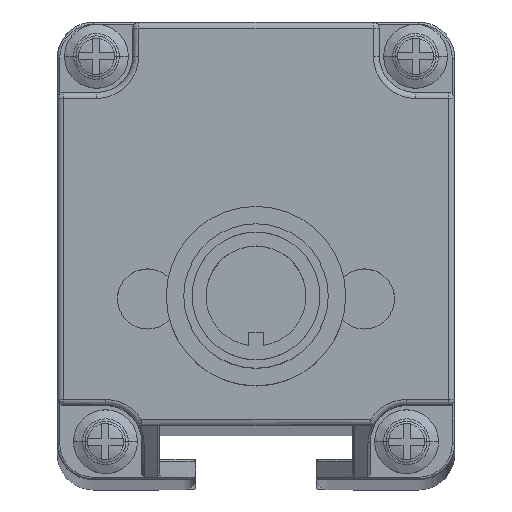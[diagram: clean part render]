
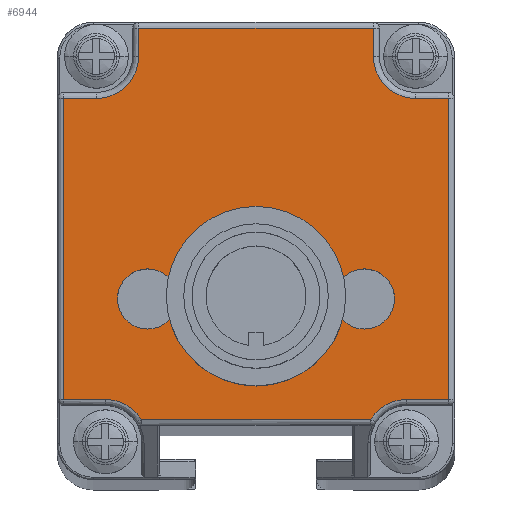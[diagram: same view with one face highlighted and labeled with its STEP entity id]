
A CAD part, top view. The second image highlights one B-rep face of the part: STEP entity #6944.
In plain terms, the highlighted planar face has unit normal (0, 0, 1).
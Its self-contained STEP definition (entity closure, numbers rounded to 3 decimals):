
#2821=CARTESIAN_POINT('',(-11.85,-19.904,
365.276));
#2822=DIRECTION('',(0.,0.,1.));
#2823=DIRECTION('',(0.849,0.528,0.));
#2824=AXIS2_PLACEMENT_3D('',#2821,#2822,#2823);
#2826=CARTESIAN_POINT('',(-12.6,12.094,365.276));
#2827=DIRECTION('',(0.,0.,1.));
#2828=DIRECTION('',(0.,-1.,0.));
#2829=AXIS2_PLACEMENT_3D('',#2826,#2827,#2828);
#2831=CARTESIAN_POINT('',(13.9,12.094,365.276));
#2832=DIRECTION('',(0.,0.,1.));
#2833=DIRECTION('',(-1.,0.,0.));
#2834=AXIS2_PLACEMENT_3D('',#2831,#2832,#2833);
#2836=CARTESIAN_POINT('',(13.15,-19.904,365.276));
#2837=DIRECTION('',(0.,0.,1.));
#2838=DIRECTION('',(0.,1.,0.));
#2839=AXIS2_PLACEMENT_3D('',#2836,#2837,#2838);
#2841=CARTESIAN_POINT('',(9.65,-8.055,365.276));
#2842=DIRECTION('',(0.,0.,1.));
#2843=DIRECTION('',(1.,-0.007,0.));
#2844=AXIS2_PLACEMENT_3D('',#2841,#2842,#2843);
#2846=CARTESIAN_POINT('',(9.65,-8.055,365.276));
#2847=DIRECTION('',(0.,0.,1.));
#2848=DIRECTION('',(-1.,0.007,0.));
#2849=AXIS2_PLACEMENT_3D('',#2846,#2847,#2848);
#2851=CARTESIAN_POINT('',(-8.35,-8.054,
365.276));
#2852=DIRECTION('',(0.,0.,1.));
#2853=DIRECTION('',(1.,0.007,0.));
#2854=AXIS2_PLACEMENT_3D('',#2851,#2852,#2853);
#2856=CARTESIAN_POINT('',(-8.35,-8.054,
365.276));
#2857=DIRECTION('',(0.,0.,1.));
#2858=DIRECTION('',(-1.,-0.007,0.));
#2859=AXIS2_PLACEMENT_3D('',#2856,#2857,#2858);
#2861=CARTESIAN_POINT('',(0.65,-8.054,
365.276));
#2862=DIRECTION('',(0.,0.,1.));
#2863=DIRECTION('',(1.,0.,0.));
#2864=AXIS2_PLACEMENT_3D('',#2861,#2862,#2863);
#2866=CARTESIAN_POINT('',(0.65,-8.054,
365.276));
#2867=DIRECTION('',(0.,0.,1.));
#2868=DIRECTION('',(-1.,0.,0.));
#2869=AXIS2_PLACEMENT_3D('',#2866,#2867,#2868);
#3044=DIRECTION('',(1.,0.,0.));
#3045=VECTOR('',#3044,19.056);
#3046=CARTESIAN_POINT('',(-8.878,-18.056,
365.276));
#3047=LINE('',#3046,#3045);
#3632=DIRECTION('',(0.,1.,0.));
#3633=VECTOR('',#3632,2.35);
#3634=CARTESIAN_POINT('',(10.4,12.094,365.276));
#3635=LINE('',#3634,#3633);
#3655=DIRECTION('',(-1.,0.,0.));
#3656=VECTOR('',#3655,19.5);
#3657=CARTESIAN_POINT('',(10.4,14.444,365.276));
#3658=LINE('',#3657,#3656);
#3679=DIRECTION('',(0.,-1.,0.));
#3680=VECTOR('',#3679,2.35);
#3681=CARTESIAN_POINT('',(-9.1,14.444,365.276));
#3682=LINE('',#3681,#3680);
#3706=DIRECTION('',(-1.,0.,0.));
#3707=VECTOR('',#3706,2.75);
#3708=CARTESIAN_POINT('',(-12.6,8.594,365.276));
#3709=LINE('',#3708,#3707);
#3879=DIRECTION('',(0.,-1.,0.));
#3880=VECTOR('',#3879,24.998);
#3881=CARTESIAN_POINT('',(-15.35,8.594,365.276));
#3882=LINE('',#3881,#3880);
#3918=DIRECTION('',(1.,0.,0.));
#3919=VECTOR('',#3918,3.5);
#3920=CARTESIAN_POINT('',(-15.35,-16.404,
365.276));
#3921=LINE('',#3920,#3919);
#4186=DIRECTION('',(-1.,0.,0.));
#4187=VECTOR('',#4186,2.75);
#4188=CARTESIAN_POINT('',(16.65,8.594,365.276));
#4189=LINE('',#4188,#4187);
#4245=DIRECTION('',(0.,1.,0.));
#4246=VECTOR('',#4245,24.998);
#4247=CARTESIAN_POINT('',(16.65,-16.404,365.276));
#4248=LINE('',#4247,#4246);
#4268=DIRECTION('',(1.,0.,0.));
#4269=VECTOR('',#4268,3.5);
#4270=CARTESIAN_POINT('',(13.15,-16.404,365.276));
#4271=LINE('',#4270,#4269);
#6011=CARTESIAN_POINT('',(12.15,-8.072,365.276));
#6012=VERTEX_POINT('',#6011);
#6013=CARTESIAN_POINT('',(7.15,-8.039,365.276));
#6014=VERTEX_POINT('',#6013);
#6015=CARTESIAN_POINT('',(-8.878,-18.056,
365.276));
#6016=CARTESIAN_POINT('',(-11.85,-16.404,
365.276));
#6017=VERTEX_POINT('',#6015);
#6018=VERTEX_POINT('',#6016);
#6019=CARTESIAN_POINT('',(-15.35,-16.404,
365.276));
#6020=VERTEX_POINT('',#6019);
#6021=CARTESIAN_POINT('',(-15.35,8.594,365.276));
#6022=VERTEX_POINT('',#6021);
#6023=CARTESIAN_POINT('',(-12.6,8.594,365.276));
#6024=VERTEX_POINT('',#6023);
#6025=CARTESIAN_POINT('',(-9.1,12.094,365.276));
#6026=VERTEX_POINT('',#6025);
#6027=CARTESIAN_POINT('',(-9.1,14.444,365.276));
#6028=VERTEX_POINT('',#6027);
#6029=CARTESIAN_POINT('',(10.4,14.444,365.276));
#6030=VERTEX_POINT('',#6029);
#6031=CARTESIAN_POINT('',(10.4,12.094,365.276));
#6032=VERTEX_POINT('',#6031);
#6033=CARTESIAN_POINT('',(13.9,8.594,365.276));
#6034=VERTEX_POINT('',#6033);
#6035=CARTESIAN_POINT('',(16.65,8.594,365.276));
#6036=VERTEX_POINT('',#6035);
#6037=CARTESIAN_POINT('',(16.65,-16.404,365.276));
#6038=VERTEX_POINT('',#6037);
#6039=CARTESIAN_POINT('',(13.15,-16.404,365.276));
#6040=VERTEX_POINT('',#6039);
#6041=CARTESIAN_POINT('',(10.178,-18.056,365.276));
#6042=VERTEX_POINT('',#6041);
#6043=CARTESIAN_POINT('',(-5.85,-8.037,
365.276));
#6044=CARTESIAN_POINT('',(-10.85,-8.07,
365.276));
#6045=VERTEX_POINT('',#6043);
#6046=VERTEX_POINT('',#6044);
#6047=CARTESIAN_POINT('',(3.65,-8.054,365.276));
#6048=CARTESIAN_POINT('',(-2.35,-8.054,
365.276));
#6049=VERTEX_POINT('',#6047);
#6050=VERTEX_POINT('',#6048);
#6893=CARTESIAN_POINT('',(0.65,0.944,
365.276));
#6894=DIRECTION('',(0.,0.,1.));
#6895=DIRECTION('',(1.,0.,0.));
#6896=AXIS2_PLACEMENT_3D('',#6893,#6894,#6895);
#6897=PLANE('',#6896);
#6899=ORIENTED_EDGE('',*,*,#6898,.T.);
#6901=ORIENTED_EDGE('',*,*,#6900,.F.);
#6903=ORIENTED_EDGE('',*,*,#6902,.F.);
#6905=ORIENTED_EDGE('',*,*,#6904,.F.);
#6907=ORIENTED_EDGE('',*,*,#6906,.T.);
#6909=ORIENTED_EDGE('',*,*,#6908,.F.);
#6911=ORIENTED_EDGE('',*,*,#6910,.F.);
#6913=ORIENTED_EDGE('',*,*,#6912,.F.);
#6915=ORIENTED_EDGE('',*,*,#6914,.T.);
#6917=ORIENTED_EDGE('',*,*,#6916,.F.);
#6919=ORIENTED_EDGE('',*,*,#6918,.F.);
#6921=ORIENTED_EDGE('',*,*,#6920,.F.);
#6923=ORIENTED_EDGE('',*,*,#6922,.T.);
#6925=ORIENTED_EDGE('',*,*,#6924,.F.);
#6926=EDGE_LOOP('',(#6899,#6901,#6903,#6905,#6907,#6909,#6911,#6913,#6915,#6917,
#6919,#6921,#6923,#6925));
#6927=FACE_OUTER_BOUND('',#6926,.F.);
#6928=ORIENTED_EDGE('',*,*,#6880,.T.);
#6929=ORIENTED_EDGE('',*,*,#6841,.T.);
#6930=EDGE_LOOP('',(#6928,#6929));
#6931=FACE_BOUND('',#6930,.F.);
#6933=ORIENTED_EDGE('',*,*,#6932,.T.);
#6935=ORIENTED_EDGE('',*,*,#6934,.T.);
#6936=EDGE_LOOP('',(#6933,#6935));
#6937=FACE_BOUND('',#6936,.F.);
#6939=ORIENTED_EDGE('',*,*,#6938,.T.);
#6941=ORIENTED_EDGE('',*,*,#6940,.T.);
#6942=EDGE_LOOP('',(#6939,#6941));
#6943=FACE_BOUND('',#6942,.F.);
#2825=CIRCLE('',#2824,3.5);
#2830=CIRCLE('',#2829,3.5);
#2835=CIRCLE('',#2834,3.5);
#2840=CIRCLE('',#2839,3.5);
#2845=CIRCLE('',#2844,2.5);
#2850=CIRCLE('',#2849,2.5);
#2855=CIRCLE('',#2854,2.5);
#2860=CIRCLE('',#2859,2.5);
#2865=CIRCLE('',#2864,3.);
#2870=CIRCLE('',#2869,3.);
#6841=EDGE_CURVE('',#6014,#6012,#2850,.T.);
#6880=EDGE_CURVE('',#6012,#6014,#2845,.T.);
#6898=EDGE_CURVE('',#6017,#6018,#2825,.T.);
#6900=EDGE_CURVE('',#6020,#6018,#3921,.T.);
#6902=EDGE_CURVE('',#6022,#6020,#3882,.T.);
#6904=EDGE_CURVE('',#6024,#6022,#3709,.T.);
#6906=EDGE_CURVE('',#6024,#6026,#2830,.T.);
#6908=EDGE_CURVE('',#6028,#6026,#3682,.T.);
#6910=EDGE_CURVE('',#6030,#6028,#3658,.T.);
#6912=EDGE_CURVE('',#6032,#6030,#3635,.T.);
#6914=EDGE_CURVE('',#6032,#6034,#2835,.T.);
#6916=EDGE_CURVE('',#6036,#6034,#4189,.T.);
#6918=EDGE_CURVE('',#6038,#6036,#4248,.T.);
#6920=EDGE_CURVE('',#6040,#6038,#4271,.T.);
#6922=EDGE_CURVE('',#6040,#6042,#2840,.T.);
#6924=EDGE_CURVE('',#6017,#6042,#3047,.T.);
#6932=EDGE_CURVE('',#6045,#6046,#2855,.T.);
#6934=EDGE_CURVE('',#6046,#6045,#2860,.T.);
#6938=EDGE_CURVE('',#6049,#6050,#2865,.T.);
#6940=EDGE_CURVE('',#6050,#6049,#2870,.T.);
#6944=ADVANCED_FACE('',(#6927,#6931,#6937,#6943),#6897,.T.);
